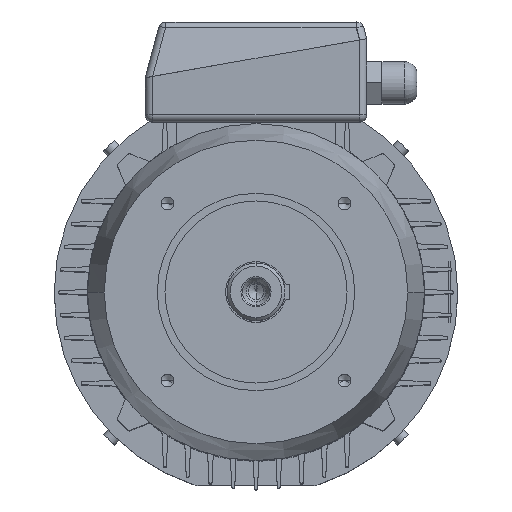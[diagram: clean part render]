
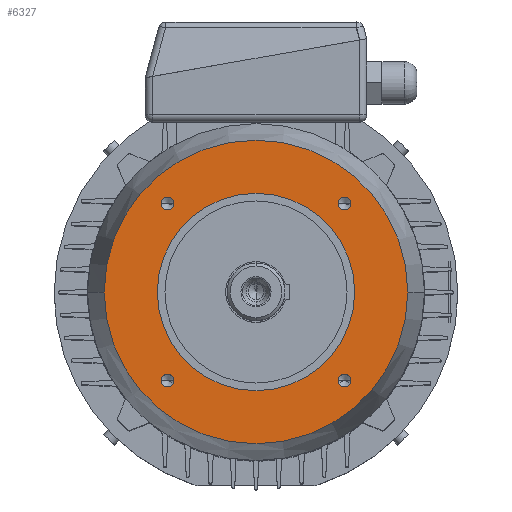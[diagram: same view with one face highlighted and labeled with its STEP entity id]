
A CAD part, top view. The second image highlights one B-rep face of the part: STEP entity #6327.
In plain terms, the highlighted planar face has unit normal (0, 0, 1).
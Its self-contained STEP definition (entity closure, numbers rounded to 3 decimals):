
#52 = EDGE_LOOP ( 'NONE', ( #12873, #12660 ) ) ;
#100 = ORIENTED_EDGE ( 'NONE', *, *, #12561, .F. ) ;
#118 = VERTEX_POINT ( 'NONE', #1944 ) ;
#161 = EDGE_CURVE ( 'NONE', #5958, #118, #2060, .T. ) ;
#219 = EDGE_CURVE ( 'NONE', #12514, #12768, #2202, .T. ) ;
#334 = ORIENTED_EDGE ( 'NONE', *, *, #1611, .F. ) ;
#433 = VERTEX_POINT ( 'NONE', #2681 ) ;
#450 = EDGE_CURVE ( 'NONE', #1553, #2297, #2719, .T. ) ;
#479 = VERTEX_POINT ( 'NONE', #2765 ) ;
#529 = EDGE_CURVE ( 'NONE', #479, #433, #2907, .T. ) ;
#545 = ORIENTED_EDGE ( 'NONE', *, *, #450, .F. ) ;
#675 = EDGE_LOOP ( 'NONE', ( #545, #334 ) ) ;
#731 = ORIENTED_EDGE ( 'NONE', *, *, #3791, .F. ) ;
#855 = EDGE_CURVE ( 'NONE', #3550, #4782, #3592, .T. ) ;
#946 = ORIENTED_EDGE ( 'NONE', *, *, #855, .F. ) ;
#1058 = EDGE_LOOP ( 'NONE', ( #946, #731 ) ) ;
#1116 = ORIENTED_EDGE ( 'NONE', *, *, #161, .F. ) ;
#1255 = EDGE_CURVE ( 'NONE', #118, #5958, #4563, .T. ) ;
#1344 = ORIENTED_EDGE ( 'NONE', *, *, #1255, .F. ) ;
#1553 = VERTEX_POINT ( 'NONE', #5179 ) ;
#1611 = EDGE_CURVE ( 'NONE', #2297, #1553, #5288, .T. ) ;
#1944 = CARTESIAN_POINT ( 'NONE',  ( -54.086, -58.336, 58. ) ) ;
#2060 = CIRCLE ( 'NONE', #2061, 4.25 ) ;
#2061 = AXIS2_PLACEMENT_3D ( 'NONE', #2062, #2063, #2064 ) ;
#2062 = CARTESIAN_POINT ( 'NONE',  ( -58.336, -58.336, 58. ) ) ;
#2063 = DIRECTION ( 'NONE',  ( 0., 0., 1. ) ) ;
#2064 = DIRECTION ( 'NONE',  ( 1., 0., 0. ) ) ;
#2202 = CIRCLE ( 'NONE', #2203, 4.25 ) ;
#2203 = AXIS2_PLACEMENT_3D ( 'NONE', #2204, #2205, #2206 ) ;
#2204 = CARTESIAN_POINT ( 'NONE',  ( 58.336, 58.336, 58. ) ) ;
#2205 = DIRECTION ( 'NONE',  ( 0., 0., 1. ) ) ;
#2206 = DIRECTION ( 'NONE',  ( 1., 0., 0. ) ) ;
#2297 = VERTEX_POINT ( 'NONE', #5932 ) ;
#2681 = CARTESIAN_POINT ( 'NONE',  ( -100., 0., 58. ) ) ;
#2719 = CIRCLE ( 'NONE', #2720, 4.25 ) ;
#2720 = AXIS2_PLACEMENT_3D ( 'NONE', #2721, #2722, #2723 ) ;
#2721 = CARTESIAN_POINT ( 'NONE',  ( -58.336, 58.336, 58. ) ) ;
#2722 = DIRECTION ( 'NONE',  ( 0., 0., 1. ) ) ;
#2723 = DIRECTION ( 'NONE',  ( 1., 0., 0. ) ) ;
#2765 = CARTESIAN_POINT ( 'NONE',  ( 100., 0., 58. ) ) ;
#2907 = CIRCLE ( 'NONE', #2908, 100. ) ;
#2908 = AXIS2_PLACEMENT_3D ( 'NONE', #2909, #2910, #2911 ) ;
#2909 = CARTESIAN_POINT ( 'NONE',  ( 0., 0., 58. ) ) ;
#2910 = DIRECTION ( 'NONE',  ( 0., 0., 1. ) ) ;
#2911 = DIRECTION ( 'NONE',  ( 1., 0., 0. ) ) ;
#3550 = VERTEX_POINT ( 'NONE', #7102 ) ;
#3592 = CIRCLE ( 'NONE', #3593, 4.25 ) ;
#3593 = AXIS2_PLACEMENT_3D ( 'NONE', #3594, #3595, #3596 ) ;
#3594 = CARTESIAN_POINT ( 'NONE',  ( 58.336, -58.336, 58. ) ) ;
#3595 = DIRECTION ( 'NONE',  ( 0., 0., 1. ) ) ;
#3596 = DIRECTION ( 'NONE',  ( 1., 0., 0. ) ) ;
#3791 = EDGE_CURVE ( 'NONE', #4782, #3550, #7339, .T. ) ;
#4563 = CIRCLE ( 'NONE', #4564, 4.25 ) ;
#4564 = AXIS2_PLACEMENT_3D ( 'NONE', #4565, #4566, #4567 ) ;
#4565 = CARTESIAN_POINT ( 'NONE',  ( -58.336, -58.336, 58. ) ) ;
#4566 = DIRECTION ( 'NONE',  ( 0., 0., 1. ) ) ;
#4567 = DIRECTION ( 'NONE',  ( 1., 0., 0. ) ) ;
#4782 = VERTEX_POINT ( 'NONE', #8082 ) ;
#5179 = CARTESIAN_POINT ( 'NONE',  ( -54.086, 58.336, 58. ) ) ;
#5288 = CIRCLE ( 'NONE', #5289, 4.25 ) ;
#5289 = AXIS2_PLACEMENT_3D ( 'NONE', #5290, #5291, #5292 ) ;
#5290 = CARTESIAN_POINT ( 'NONE',  ( -58.336, 58.336, 58. ) ) ;
#5291 = DIRECTION ( 'NONE',  ( 0., 0., 1. ) ) ;
#5292 = DIRECTION ( 'NONE',  ( 1., 0., 0. ) ) ;
#5481 = ORIENTED_EDGE ( 'NONE', *, *, #219, .F. ) ;
#5792 = CIRCLE ( 'NONE', #5793, 65. ) ;
#5793 = AXIS2_PLACEMENT_3D ( 'NONE', #5794, #5795, #5796 ) ;
#5794 = CARTESIAN_POINT ( 'NONE',  ( 0., 0., 58. ) ) ;
#5795 = DIRECTION ( 'NONE',  ( 0., 0., 1. ) ) ;
#5796 = DIRECTION ( 'NONE',  ( 1., 0., 0. ) ) ;
#5865 = CARTESIAN_POINT ( 'NONE',  ( 62.586, 58.336, 58. ) ) ;
#5932 = CARTESIAN_POINT ( 'NONE',  ( -62.586, 58.336, 58. ) ) ;
#5958 = VERTEX_POINT ( 'NONE', #8622 ) ;
#6058 = EDGE_LOOP ( 'NONE', ( #5481, #100 ) ) ;
#6145 = CIRCLE ( 'NONE', #6146, 4.25 ) ;
#6146 = AXIS2_PLACEMENT_3D ( 'NONE', #6147, #6148, #6149 ) ;
#6147 = CARTESIAN_POINT ( 'NONE',  ( 58.336, 58.336, 58. ) ) ;
#6148 = DIRECTION ( 'NONE',  ( 0., 0., 1. ) ) ;
#6149 = DIRECTION ( 'NONE',  ( 1., 0., 0. ) ) ;
#6327 = ADVANCED_FACE ( 'NONE', ( #8835, #8836, #8837, #8838, #8839, #8840 ), #8841, .F. ) ;
#7034 = CARTESIAN_POINT ( 'NONE',  ( 54.086, 58.336, 58. ) ) ;
#7091 = CIRCLE ( 'NONE', #7092, 100. ) ;
#7092 = AXIS2_PLACEMENT_3D ( 'NONE', #7093, #7094, #7095 ) ;
#7093 = CARTESIAN_POINT ( 'NONE',  ( 0., 0., 58. ) ) ;
#7094 = DIRECTION ( 'NONE',  ( 0., 0., 1. ) ) ;
#7095 = DIRECTION ( 'NONE',  ( 1., 0., 0. ) ) ;
#7102 = CARTESIAN_POINT ( 'NONE',  ( 62.586, -58.336, 58. ) ) ;
#7339 = CIRCLE ( 'NONE', #7340, 4.25 ) ;
#7340 = AXIS2_PLACEMENT_3D ( 'NONE', #7346, #7347, #7348 ) ;
#7346 = CARTESIAN_POINT ( 'NONE',  ( 58.336, -58.336, 58. ) ) ;
#7347 = DIRECTION ( 'NONE',  ( 0., 0., 1. ) ) ;
#7348 = DIRECTION ( 'NONE',  ( 1., 0., 0. ) ) ;
#8082 = CARTESIAN_POINT ( 'NONE',  ( 54.086, -58.336, 58. ) ) ;
#8622 = CARTESIAN_POINT ( 'NONE',  ( -62.586, -58.336, 58. ) ) ;
#8835 = FACE_BOUND ( 'NONE', #6058, .T. ) ;
#8836 = FACE_OUTER_BOUND ( 'NONE', #52, .T. ) ;
#8837 = FACE_BOUND ( 'NONE', #12609, .T. ) ;
#8838 = FACE_BOUND ( 'NONE', #11184, .T. ) ;
#8839 = FACE_BOUND ( 'NONE', #1058, .T. ) ;
#8840 = FACE_BOUND ( 'NONE', #675, .T. ) ;
#8841 = PLANE ( 'NONE',  #8842 ) ;
#8842 = AXIS2_PLACEMENT_3D ( 'NONE', #8843, #8844, #8845 ) ;
#8843 = CARTESIAN_POINT ( 'NONE',  ( 0., 100., 58. ) ) ;
#8844 = DIRECTION ( 'NONE',  ( 0., 0., -1. ) ) ;
#8845 = DIRECTION ( 'NONE',  ( -1., 0., 0. ) ) ;
#11184 = EDGE_LOOP ( 'NONE', ( #1344, #1116 ) ) ;
#11449 = EDGE_CURVE ( 'NONE', #12170, #12405, #11753, .T. ) ;
#11753 = CIRCLE ( 'NONE', #11754, 65. ) ;
#11754 = AXIS2_PLACEMENT_3D ( 'NONE', #11755, #11756, #11757 ) ;
#11755 = CARTESIAN_POINT ( 'NONE',  ( 0., 0., 58. ) ) ;
#11756 = DIRECTION ( 'NONE',  ( 0., 0., 1. ) ) ;
#11757 = DIRECTION ( 'NONE',  ( 1., 0., 0. ) ) ;
#11859 = ORIENTED_EDGE ( 'NONE', *, *, #11449, .F. ) ;
#12170 = VERTEX_POINT ( 'NONE', #12197 ) ;
#12197 = CARTESIAN_POINT ( 'NONE',  ( -65., 0., 58. ) ) ;
#12324 = CARTESIAN_POINT ( 'NONE',  ( 65., 0., 58. ) ) ;
#12405 = VERTEX_POINT ( 'NONE', #12324 ) ;
#12424 = ORIENTED_EDGE ( 'NONE', *, *, #12498, .F. ) ;
#12498 = EDGE_CURVE ( 'NONE', #12405, #12170, #5792, .T. ) ;
#12514 = VERTEX_POINT ( 'NONE', #5865 ) ;
#12561 = EDGE_CURVE ( 'NONE', #12768, #12514, #6145, .T. ) ;
#12609 = EDGE_LOOP ( 'NONE', ( #12424, #11859 ) ) ;
#12660 = ORIENTED_EDGE ( 'NONE', *, *, #529, .T. ) ;
#12768 = VERTEX_POINT ( 'NONE', #7034 ) ;
#12784 = EDGE_CURVE ( 'NONE', #433, #479, #7091, .T. ) ;
#12873 = ORIENTED_EDGE ( 'NONE', *, *, #12784, .T. ) ;
